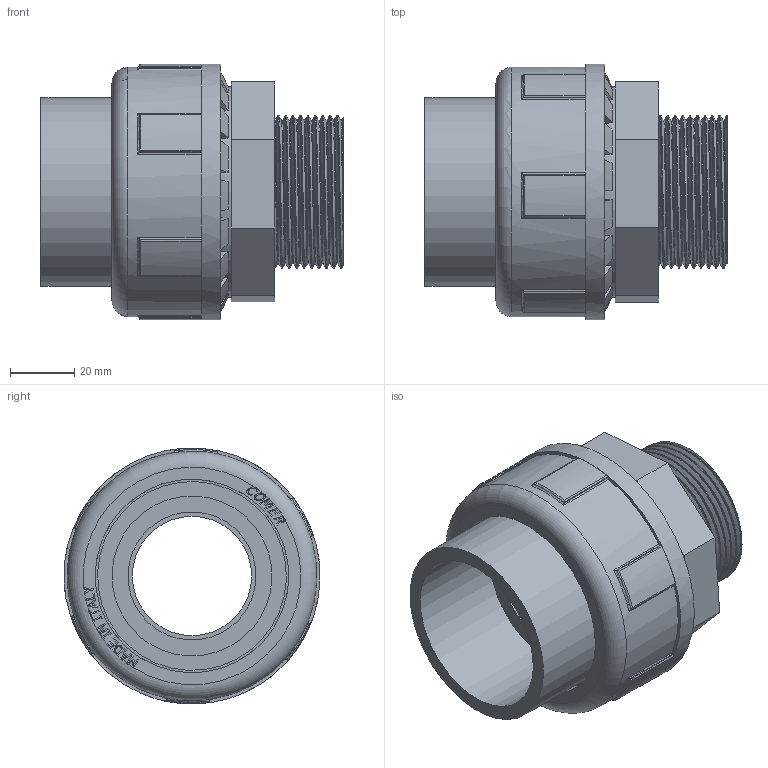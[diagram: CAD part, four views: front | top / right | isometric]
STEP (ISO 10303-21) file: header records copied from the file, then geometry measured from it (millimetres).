
FILE_DESCRIPTION(/* description */ (''),/* implementation_level */ '2;1');
FILE_NAME(/* name */ 'C:\Users\e.sacchi\Desktop\US82\US82050F\US82050F.stp',/* time_stamp */ '2018-06-28T11:15:56+02:00',/* author */ ('e.sacchi'),/* organization */ (''),/* preprocessor_version */ 'ST-DEVELOPER v16.13',/* originating_system */ 'Autodesk Inventor 2018',/* authorisation */ '');
FILE_SCHEMA (('AUTOMOTIVE_DESIGN { 1 0 10303 214 3 1 1 }'));
Length unit declared in the file: millimetre
Products named in the file (5): UN72050F; UB800500; LAV6187E; UE830500; NU800500
Assembly tree (4 placements, depth 2):
  UN72050F
    UB800500
    LAV6187E
    UE830500
    NU800500
Bounding box: 94.4 x 79.96 x 79.98 mm (x, y, z)
Volume: 182904.5 mm3; surface area: 100141.6 mm2
Topology: 8 solids, 8 shells, 445 faces, 1168 edges, 752 vertices
Faces by surface type: plane 275, bspline 63, cylinder 54, cone 39, torus 14
Full cylindrical faces by diameter (mm): 37.29 x1, 39.29 x1, 40 x1, 44.786 x2, 46 x1, 50 x1, 57 x1, 59 x1, 60.5 x2, 62.5 x1, 62.696 x2, 64.71 x1, 65.71 x4, 78 x1, 80 x1
Entity records: 28772 total; most frequent: CARTESIAN_POINT 18029, ORIENTED_EDGE 2276, DIRECTION 1983, EDGE_CURVE 1137, VERTEX_POINT 746, LINE 721, VECTOR 721, AXIS2_PLACEMENT_3D 631
